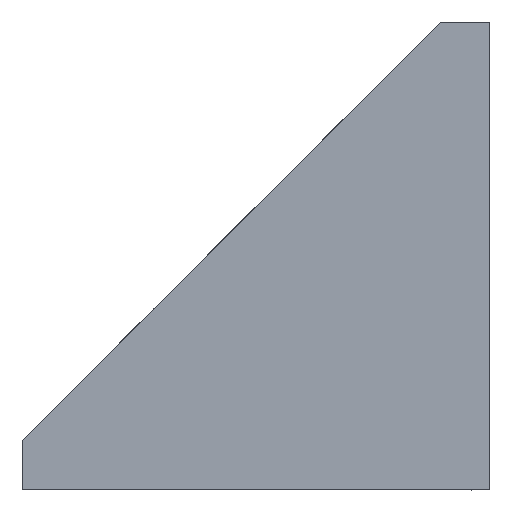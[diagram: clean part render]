
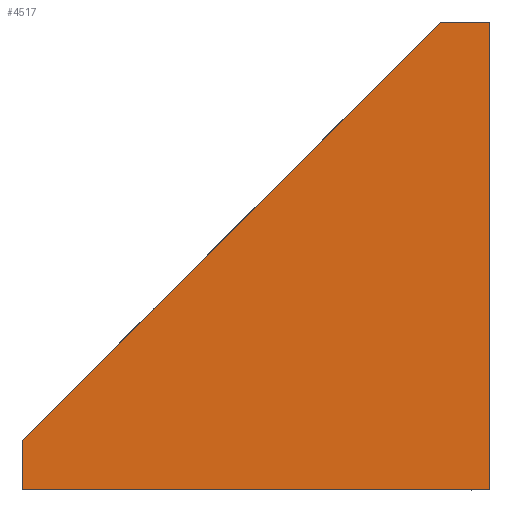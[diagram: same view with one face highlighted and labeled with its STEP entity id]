
A CAD part, left-side view. The second image highlights one B-rep face of the part: STEP entity #4517.
In plain terms, the highlighted planar face has unit normal (-1, 0, 0).
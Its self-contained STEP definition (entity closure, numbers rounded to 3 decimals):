
#256 = LINE ( 'NONE', #1846, #3825 ) ;
#435 = EDGE_CURVE ( 'NONE', #789, #3369, #3913, .T. ) ;
#520 = VECTOR ( 'NONE', #3526, 1000. ) ;
#624 = PLANE ( 'NONE',  #4875 ) ;
#637 = VERTEX_POINT ( 'NONE', #3521 ) ;
#789 = VERTEX_POINT ( 'NONE', #2241 ) ;
#1103 = CARTESIAN_POINT ( 'NONE',  ( -29., 0., 0. ) ) ;
#1118 = VECTOR ( 'NONE', #2243, 1000. ) ;
#1163 = CARTESIAN_POINT ( 'NONE',  ( -29., -22.5, 28.5 ) ) ;
#1368 = DIRECTION ( 'NONE',  ( 0., 0., -1. ) ) ;
#1399 = ORIENTED_EDGE ( 'NONE', *, *, #2325, .F. ) ;
#1444 = VECTOR ( 'NONE', #5224, 1000. ) ;
#1578 = DIRECTION ( 'NONE',  ( 1., 0., 0. ) ) ;
#1846 = CARTESIAN_POINT ( 'NONE',  ( -29., -28.5, 28.5 ) ) ;
#2036 = ORIENTED_EDGE ( 'NONE', *, *, #3378, .F. ) ;
#2241 = CARTESIAN_POINT ( 'NONE',  ( -29., -28.5, -28.5 ) ) ;
#2243 = DIRECTION ( 'NONE',  ( 0., -0.707, 0.707 ) ) ;
#2325 = EDGE_CURVE ( 'NONE', #2700, #5719, #5448, .T. ) ;
#2407 = CARTESIAN_POINT ( 'NONE',  ( -29., 28.5, -28.5 ) ) ;
#2700 = VERTEX_POINT ( 'NONE', #4903 ) ;
#2741 = CARTESIAN_POINT ( 'NONE',  ( -29., -28.5, 28.5 ) ) ;
#3369 = VERTEX_POINT ( 'NONE', #4082 ) ;
#3373 = VECTOR ( 'NONE', #5161, 1000. ) ;
#3378 = EDGE_CURVE ( 'NONE', #637, #2700, #5874, .T. ) ;
#3521 = CARTESIAN_POINT ( 'NONE',  ( -29., 28.5, -22.5 ) ) ;
#3526 = DIRECTION ( 'NONE',  ( 0., -1., 0. ) ) ;
#3580 = EDGE_CURVE ( 'NONE', #3369, #637, #5810, .T. ) ;
#3712 = EDGE_LOOP ( 'NONE', ( #1399, #2036, #5916, #4477, #4118 ) ) ;
#3825 = VECTOR ( 'NONE', #1368, 1000. ) ;
#3913 = LINE ( 'NONE', #5677, #1444 ) ;
#4082 = CARTESIAN_POINT ( 'NONE',  ( -29., 28.5, -28.5 ) ) ;
#4118 = ORIENTED_EDGE ( 'NONE', *, *, #4300, .F. ) ;
#4300 = EDGE_CURVE ( 'NONE', #5719, #789, #256, .T. ) ;
#4477 = ORIENTED_EDGE ( 'NONE', *, *, #435, .F. ) ;
#4517 = ADVANCED_FACE ( 'NONE', ( #4813 ), #624, .F. ) ;
#4527 = CARTESIAN_POINT ( 'NONE',  ( -29., 28.5, -22.5 ) ) ;
#4788 = DIRECTION ( 'NONE',  ( 0., 0., -1. ) ) ;
#4813 = FACE_OUTER_BOUND ( 'NONE', #3712, .T. ) ;
#4875 = AXIS2_PLACEMENT_3D ( 'NONE', #1103, #1578, #4788 ) ;
#4903 = CARTESIAN_POINT ( 'NONE',  ( -29., -22.5, 28.5 ) ) ;
#5161 = DIRECTION ( 'NONE',  ( 0., 0., 1. ) ) ;
#5224 = DIRECTION ( 'NONE',  ( 0., 1., 0. ) ) ;
#5448 = LINE ( 'NONE', #1163, #520 ) ;
#5677 = CARTESIAN_POINT ( 'NONE',  ( -29., -28.5, -28.5 ) ) ;
#5719 = VERTEX_POINT ( 'NONE', #2741 ) ;
#5810 = LINE ( 'NONE', #2407, #3373 ) ;
#5874 = LINE ( 'NONE', #4527, #1118 ) ;
#5916 = ORIENTED_EDGE ( 'NONE', *, *, #3580, .F. ) ;
